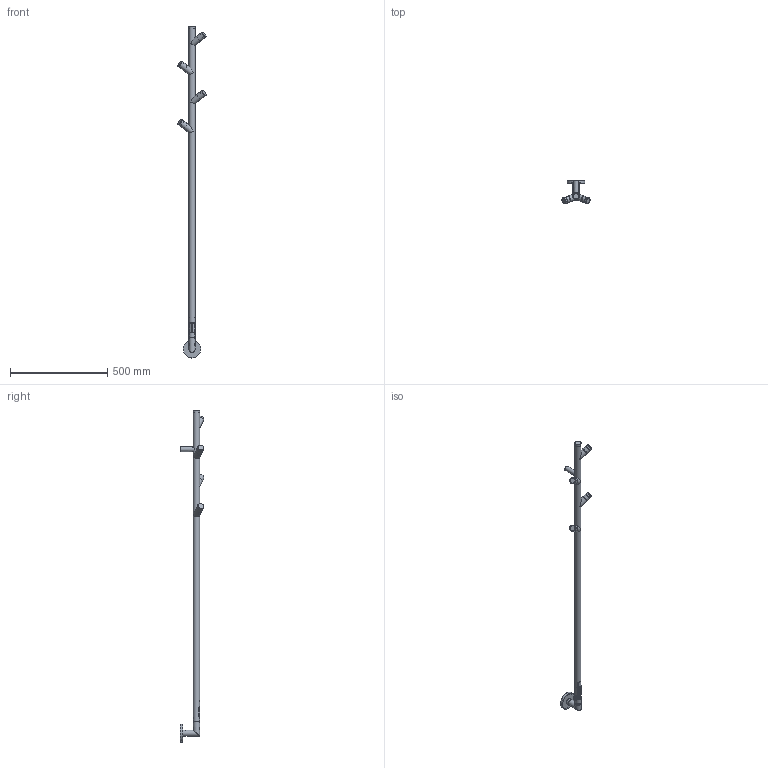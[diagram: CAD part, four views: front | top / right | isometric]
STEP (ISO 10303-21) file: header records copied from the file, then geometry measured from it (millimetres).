
FILE_DESCRIPTION(/* description */ ('Unknown'),/* implementation_level */ '2;1');
FILE_NAME(/* name */ 'LS1B',/* time_stamp */ '2024-05-19T21:00:27+02:00',/* author */ ('Unknown'),/* organization */ ('Unknown'),/* preprocessor_version */ 'ST-DEVELOPER v18.102',/* originating_system */ 'Solid Edge',/* authorisation */ 'Unknown');
FILE_SCHEMA (('AUTOMOTIVE_DESIGN {1 0 10303 214 3 1 1}'));
Length unit declared in the file: millimetre
Products named in the file (19): LS - Lisa; LS-V-TR-32-1-1600 - Svislá trubka LS; BW-K-2 - Koleno spodní BW; PD-R-1 - Rozeta; BW-K-TR-R - Trubka kolena u rozety; BW-K-TR-K - Trubka kolena u konektoru; Sestava p鷫p璯a鋀; PD-P-1 - Spodní díl pøepínaèe; PD-P-2 - Horní díl pøepínaèe; PD-P-3 - Kryt p鷫p璯a鋀; PD-K-2 - Konektor 30x60 s dírou pro kabel; Nýtová matice M5; PD-V-1 - Víèko 32; OL-HD - Svaøenec držáku; OL-TR-HD - Trubka horního držáku; LD-P-P - Pøipojovací plech; PD-LS-Plastová pøíchytka; LS-TR-32-1-80-Háèek; ŠROUB_DIN_912_M5x20
Assembly tree (34 placements, depth 3):
  LS - Lisa
    LS-V-TR-32-1-1600 - Svislá trubka LS
    BW-K-2 - Koleno spodní BW
      PD-R-1 - Rozeta
      BW-K-TR-R - Trubka kolena u rozety
      BW-K-TR-K - Trubka kolena u konektoru
    Sestava p鷫p璯a鋀
      PD-P-1 - Spodní díl pøepínaèe
      PD-P-2 - Horní díl pøepínaèe
      PD-P-3 - Kryt p鷫p璯a鋀
    PD-K-2 - Konektor 30x60 s dírou pro kabel
    Nýtová matice M5  x4
    PD-V-1 - Víèko 32  x5
    OL-HD - Svaøenec držáku
      OL-TR-HD - Trubka horního držáku
      LD-P-P - Pøipojovací plech
    PD-LS-Plastová pøíchytka  x4
    LS-TR-32-1-80-Háèek  x4
    ŠROUB_DIN_912_M5x20  x4
Bounding box: 145.24 x 122.05 x 1707.5 mm (x, y, z)
Volume: 376703.6 mm3; surface area: 496631.7 mm2
Topology: 31 solids, 31 shells, 1134 faces, 2822 edges, 1784 vertices
Faces by surface type: cylinder 441, plane 410, torus 157, sphere 58, cone 46, bspline 22
Full cylindrical faces by diameter (mm): 2.4 x2, 3.4 x2, 4.019 x4, 4.134 x5, 4.3 x3, 5 x10, 5.2 x2, 5.5 x10, 6.9 x8, 7 x5, 8 x4, 8.5 x4, 10 x4, 12.5 x1, 21 x1, 22 x2, 23 x1, 25 x1, 25.1 x2, 26.1 x2, 26.5 x5, 28.5 x3, 29 x3, 29.5 x8, 29.8 x4, 30 x5, 32 x12, 81.8 x1, 87.2 x1, 91 x1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
Entity records: 28871 total; most frequent: CARTESIAN_POINT 7647, ORIENTED_EDGE 4150, DIRECTION 4008, EDGE_CURVE 2075, AXIS2_PLACEMENT_3D 1543, VERTEX_POINT 1365, EDGE_LOOP 1060, FACE_BOUND 1060
